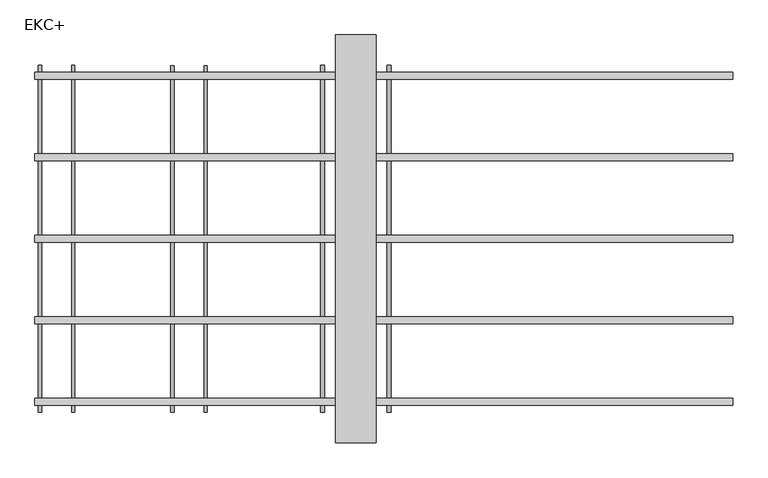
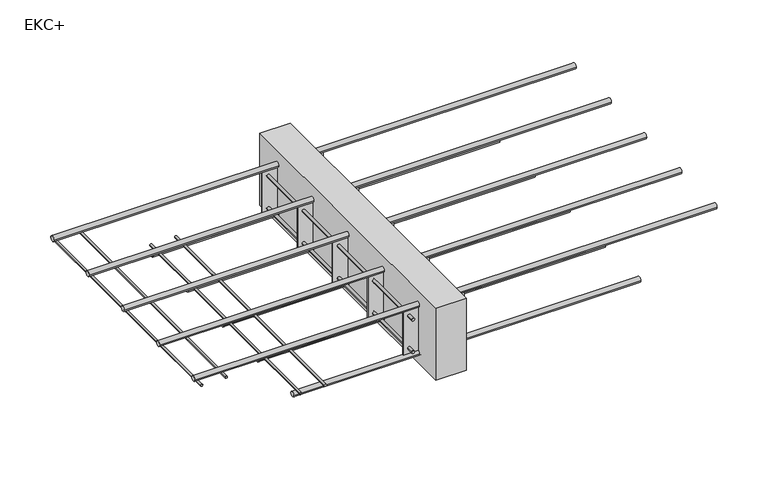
"""IFC4 building model written with IfcOpenShell, lengths in millimetres: fastener geometry, ACINOXplus_Typenreihe_EK : EKC+."""

import ifcopenshell
import ifcopenshell.guid

model = None  # the IFC model being written
_history = None  # IfcOwnerHistory: only IFC2X3 demands one
_inside = {}  # id of a spatial element -> (the spatial element, [elements in it])
_under = {}  # id of a project, library or spatial element -> (it, [spatial elements below it])
_declared = {}  # id of a project -> (the project, [libraries it declares])
_typed = {}  # id of a type object -> (the type object, [elements of that type])
_made_of = {}  # id of a material, layer set ... -> (it, [elements and type objects made of it])


def new_model(schema):
    """Start an empty IFC model of exactly this schema.

    Asked for "IFC4X3", IfcOpenShell would pick the latest addendum, in which some entities
    have other attributes; the version numbers below select the first issue.
    IFC2X3 requires an IfcOwnerHistory on every rooted entity: one is made here for all.
    """
    global model, _history
    if schema == "IFC4X3":
        model = ifcopenshell.file(schema_version=(4, 3, 0, 0))
    else:
        model = ifcopenshell.file(schema=schema)
    _inside.clear()
    _under.clear()
    _declared.clear()
    _typed.clear()
    _made_of.clear()
    _history = None
    if model.schema == "IFC2X3":
        org = make("IfcOrganization", Name="unknown")
        user = make(
            "IfcPersonAndOrganization",
            ThePerson=make("IfcPerson", FamilyName="unknown"),
            TheOrganization=org,
        )
        app = make(
            "IfcApplication",
            ApplicationDeveloper=org,
            Version="unknown",
            ApplicationFullName="unknown",
            ApplicationIdentifier="unknown",
        )
        _history = make(
            "IfcOwnerHistory",
            OwningUser=user,
            OwningApplication=app,
            ChangeAction="ADDED",
            CreationDate=0,
        )
    return model


def make(cls, **values):
    """One entity of the class cls with the attributes given. An attribute that is None is left unset."""
    return model.create_entity(
        cls, **{name: value for name, value in values.items() if value is not None}
    )


def rooted(cls, **values):
    """An entity with a GlobalId (a new one), such as an element, a storey or a relation."""
    return make(cls, GlobalId=ifcopenshell.guid.new(), OwnerHistory=_history, **values)


def si_unit(unit_type, name, prefix=None):
    """IfcSIUnit, for example si_unit("LENGTHUNIT", "METRE", prefix="MILLI")."""
    return make("IfcSIUnit", UnitType=unit_type, Prefix=prefix, Name=name)


def assignment(units):
    """IfcUnitAssignment: the units of a project."""
    return None if units is None else make("IfcUnitAssignment", Units=units)


def point(xyz):
    """IfcCartesianPoint."""
    return None if xyz is None else make("IfcCartesianPoint", Coordinates=xyz)


def direction(xyz):
    """IfcDirection."""
    return None if xyz is None else make("IfcDirection", DirectionRatios=xyz)


def frame(location, z_axis=None, x_axis=None):
    """IfcAxis2Placement3D, a coordinate frame: its origin and axes. An axis left out is left unset."""
    return make(
        "IfcAxis2Placement3D",
        Location=point(location),
        Axis=direction(z_axis),
        RefDirection=direction(x_axis),
    )


def frame_2d(location, x_axis=None):
    """IfcAxis2Placement2D, a coordinate frame in the plane: its origin and x axis."""
    return make(
        "IfcAxis2Placement2D", Location=point(location), RefDirection=direction(x_axis)
    )


def origin():
    """The frame at (0, 0, 0) with its axes left unset."""
    return frame((0.0, 0.0, 0.0))


def place(relative_to, where):
    """IfcLocalPlacement: puts the frame where relative to a parent placement (None: the world)."""
    return make(
        "IfcLocalPlacement", PlacementRelTo=relative_to, RelativePlacement=where
    )


def context(
    kind, dimensions, precision=None, world=None, true_north=None, identifier=None
):
    """IfcGeometricRepresentationContext, for example the 3D "Model" context."""
    return make(
        "IfcGeometricRepresentationContext",
        ContextIdentifier=identifier,
        ContextType=kind,
        CoordinateSpaceDimension=dimensions,
        Precision=precision,
        WorldCoordinateSystem=world,
        TrueNorth=true_north,
    )


def project(units=None, contexts=None):
    """IfcProject with its units and contexts."""
    return rooted(
        "IfcProject",
        Name="project",
        RepresentationContexts=contexts,
        UnitsInContext=assignment(units),
    )


def spatial(cls, under=None, at=None, **own):
    """A site, building, storey or space (cls), placed at a placement, below another one or the project."""
    s = rooted(cls, ObjectPlacement=at, **own)
    if under is not None:
        _under.setdefault(under.id(), (under, []))[1].append(s)
    return s


def polyline(points):
    """IfcPolyline through the points."""
    return make("IfcPolyline", Points=[point(p) for p in points])


def circle_curve(where, radius):
    """IfcCircle in the frame where."""
    return make("IfcCircle", Position=where, Radius=radius)


def trimmed(basis, trim1, trim2, sense, master):
    """IfcTrimmedCurve: the piece of a basis curve between two trims."""
    return make(
        "IfcTrimmedCurve",
        BasisCurve=basis,
        Trim1=trim1,
        Trim2=trim2,
        SenseAgreement=sense,
        MasterRepresentation=master,
    )


def segment(curve, same_sense, transition):
    """IfcCompositeCurveSegment."""
    return make(
        "IfcCompositeCurveSegment",
        Transition=transition,
        SameSense=same_sense,
        ParentCurve=curve,
    )


def composite_curve(segments, self_intersect=None):
    """IfcCompositeCurve: segments joined end to end."""
    return make("IfcCompositeCurve", Segments=segments, SelfIntersect=self_intersect)


def outline(outer, holes=None, kind="AREA"):
    """IfcArbitraryClosedProfileDef: a profile drawn as a closed curve; with holes, ...WithVoids."""
    if holes is None:
        return make("IfcArbitraryClosedProfileDef", ProfileType=kind, OuterCurve=outer)
    return make(
        "IfcArbitraryProfileDefWithVoids",
        ProfileType=kind,
        OuterCurve=outer,
        InnerCurves=holes,
    )


def extrude(swept, where, along, depth):
    """IfcExtrudedAreaSolid: the profile swept, set in the frame where, extruded along a direction by depth."""
    return make(
        "IfcExtrudedAreaSolid",
        SweptArea=swept,
        Position=where,
        ExtrudedDirection=direction(along),
        Depth=depth,
    )


def shape(context_of_items, identifier, shape_type, items):
    """IfcShapeRepresentation: the items that make up one representation, for example the "Body"."""
    return make(
        "IfcShapeRepresentation",
        ContextOfItems=context_of_items,
        RepresentationIdentifier=identifier,
        RepresentationType=shape_type,
        Items=items,
    )


def source(mapping_origin, context_of_items, identifier, shape_type, items):
    """IfcRepresentationMap: a shape defined once, which mapped items show again and again."""
    return make(
        "IfcRepresentationMap",
        MappingOrigin=mapping_origin,
        MappedRepresentation=shape(context_of_items, identifier, shape_type, items),
    )


def transform(
    local_origin,
    x_axis=None,
    y_axis=None,
    z_axis=None,
    scale=None,
    scale2=None,
    scale3=None,
    uniform=True,
):
    """IfcCartesianTransformationOperator3D, or its non-uniform kind. x_axis, y_axis, z_axis: its Axis1, 2, 3."""
    if uniform:
        return make(
            "IfcCartesianTransformationOperator3D",
            Axis1=direction(x_axis),
            Axis2=direction(y_axis),
            LocalOrigin=point(local_origin),
            Scale=scale,
            Axis3=direction(z_axis),
        )
    return make(
        "IfcCartesianTransformationOperator3DnonUniform",
        Axis1=direction(x_axis),
        Axis2=direction(y_axis),
        LocalOrigin=point(local_origin),
        Scale=scale,
        Axis3=direction(z_axis),
        Scale2=scale2,
        Scale3=scale3,
    )


def mapped(mapping_source, mapping_target):
    """IfcMappedItem: shows the shape of a source again, moved by a transform."""
    return make(
        "IfcMappedItem", MappingSource=mapping_source, MappingTarget=mapping_target
    )


def made_of(thing, what):
    """Note that an element or type object is made of a material, layer set ...; save() writes the relation."""
    if what is not None:
        _made_of.setdefault(what.id(), (what, []))[1].append(thing)
    return thing


def element(
    cls,
    number,
    at=None,
    inside=None,
    cuts=None,
    type_object=None,
    material=None,
    context=None,
    identifier="Body",
    shape_type=None,
    held_by="IfcProductDefinitionShape",
    body=None,
    shapes=None,
    **own,
):
    """One element of the class cls, such as IfcWall. Its Tag is "e" and its number.

    at: its placement. inside: the storey or other place that contains it. cuts: it is an
    opening in that element (IfcRelVoidsElement). A single representation is given by context,
    identifier, shape_type and body (its items); several are given by shapes. held_by: the class
    of the entity that holds the representations. save() writes the other relations.
    """
    e = rooted(cls, Tag="e%d" % number, ObjectPlacement=at, **own)
    if body is not None:
        shapes = [shape(context, identifier, shape_type, body)]
    if shapes is not None:
        e.Representation = make(held_by, Representations=shapes)
    if inside is not None:
        _inside.setdefault(inside.id(), (inside, []))[1].append(e)
    if cuts is not None:
        rooted(
            "IfcRelVoidsElement", RelatingBuildingElement=cuts, RelatedOpeningElement=e
        )
    if type_object is not None:
        _typed.setdefault(type_object.id(), (type_object, []))[1].append(e)
    return made_of(e, material)


def aggregate(whole, parts):
    """IfcRelAggregates: a whole, such as a stair, and the parts it consists of."""
    return rooted("IfcRelAggregates", RelatingObject=whole, RelatedObjects=parts)


def save(model, path):
    """Write the relations noted so far, then the file.

    IfcRelAggregates (storeys below a building ...), IfcRelContainedInSpatialStructure (elements
    in a storey), IfcRelDefinesByType, IfcRelAssociatesMaterial and IfcRelDeclares: one each for
    every whole, place, type object, material and project.
    """
    for whole, parts in _under.values():
        aggregate(whole, parts)
    for where, things in _inside.values():
        rooted(
            "IfcRelContainedInSpatialStructure",
            RelatedElements=things,
            RelatingStructure=where,
        )
    for kind, things in _typed.values():
        rooted("IfcRelDefinesByType", RelatedObjects=things, RelatingType=kind)
    for what, things in _made_of.values():
        rooted("IfcRelAssociatesMaterial", RelatedObjects=things, RelatingMaterial=what)
    for by, libraries in _declared.values():
        rooted("IfcRelDeclares", RelatingContext=by, RelatedDefinitions=libraries)
    model.write(path)


def ekc_1103d9b3(model_context):
    return source(origin(), model_context, "Body", "SweptSolid", [
        extrude(outline(polyline([(40.0, 400.0), (40.0, -400.0), (-40.0, -400.0), (-40.0, 400.0), (40.0, 400.0)])), frame((0.0, 0.0, -200.0), z_axis=(0.0, 0.0, 1.0), x_axis=(1.0, 0.0, 0.0)), (0.0, 0.0, 1.0), 200.0),
        extrude(outline(polyline([(80.0, -158.5), (80.0, -161.5), (-80.0, -161.5), (-80.0, -158.5), (80.0, -158.5)])), frame((0.0, 0.0, -164.0), z_axis=(0.0, 0.0, 1.0), x_axis=(1.0, 0.0, 0.0)), (0.0, 0.0, 1.0), 120.0),
        extrude(outline(polyline([(80.0, 1.5), (80.0, -1.5), (-80.0, -1.5), (-80.0, 1.5), (80.0, 1.5)])), frame((0.0, 0.0, -164.0), z_axis=(0.0, 0.0, 1.0), x_axis=(1.0, 0.0, 0.0)), (0.0, 0.0, 1.0), 120.0),
        extrude(outline(polyline([(80.0, 161.5), (80.0, 158.5), (-80.0, 158.5), (-80.0, 161.5), (80.0, 161.5)])), frame((0.0, 0.0, -164.0), z_axis=(0.0, 0.0, 1.0), x_axis=(1.0, 0.0, 0.0)), (0.0, 0.0, 1.0), 120.0),
        extrude(outline(polyline([(80.0, -318.5), (80.0, -321.5), (-80.0, -321.5), (-80.0, -318.5), (80.0, -318.5)])), frame((0.0, 0.0, -164.0), z_axis=(0.0, 0.0, 1.0), x_axis=(1.0, 0.0, 0.0)), (0.0, 0.0, 1.0), 120.0),
        extrude(outline(polyline([(80.0, 321.5), (80.0, 318.5), (-80.0, 318.5), (-80.0, 321.5), (80.0, 321.5)])), frame((0.0, 0.0, -164.0), z_axis=(0.0, 0.0, 1.0), x_axis=(1.0, 0.0, 0.0)), (0.0, 0.0, 1.0), 120.0),
        extrude(outline(composite_curve([segment(trimmed(circle_curve(frame_2d((-149.0, -65.0)), 4.0), [point((-149.0, -61.0))], [point((-149.0, -69.0))], False, "CARTESIAN"), True, "CONTINUOUS"), segment(trimmed(circle_curve(frame_2d((-149.0, -65.0)), 4.0), [point((-149.0, -69.0))], [point((-149.0, -61.0))], False, "CARTESIAN"), True, "CONTINUOUS")], self_intersect=False)), frame((0.0, -340.0, 0.0), z_axis=(0.0, 1.0, 0.0), x_axis=(0.0, 0.0, 1.0)), (0.0, 0.0, 1.0), 680.0),
        extrude(outline(composite_curve([segment(trimmed(circle_curve(frame_2d((-149.0, 65.0)), 4.0), [point((-149.0, 69.0))], [point((-149.0, 61.0))], False, "CARTESIAN"), True, "CONTINUOUS"), segment(trimmed(circle_curve(frame_2d((-149.0, 65.0)), 4.0), [point((-149.0, 61.0))], [point((-149.0, 69.0))], False, "CARTESIAN"), True, "CONTINUOUS")], self_intersect=False)), frame((0.0, -340.0, 0.0), z_axis=(0.0, 1.0, 0.0), x_axis=(0.0, 0.0, 1.0)), (0.0, 0.0, 1.0), 680.0),
        extrude(outline(composite_curve([segment(trimmed(circle_curve(frame_2d((-59.0, -65.0)), 4.0), [point((-59.0, -61.0))], [point((-59.0, -69.0))], False, "CARTESIAN"), True, "CONTINUOUS"), segment(trimmed(circle_curve(frame_2d((-59.0, -65.0)), 4.0), [point((-59.0, -69.0))], [point((-59.0, -61.0))], False, "CARTESIAN"), True, "CONTINUOUS")], self_intersect=False)), frame((0.0, -340.0, 0.0), z_axis=(0.0, 1.0, 0.0), x_axis=(0.0, 0.0, 1.0)), (0.0, 0.0, 1.0), 680.0),
        extrude(outline(composite_curve([segment(trimmed(circle_curve(frame_2d((-59.0, 65.0)), 4.0), [point((-59.0, 69.0))], [point((-59.0, 61.0))], False, "CARTESIAN"), True, "CONTINUOUS"), segment(trimmed(circle_curve(frame_2d((-59.0, 65.0)), 4.0), [point((-59.0, 61.0))], [point((-59.0, 69.0))], False, "CARTESIAN"), True, "CONTINUOUS")], self_intersect=False)), frame((0.0, -340.0, 0.0), z_axis=(0.0, 1.0, 0.0), x_axis=(0.0, 0.0, 1.0)), (0.0, 0.0, 1.0), 680.0),
        extrude(outline(composite_curve([segment(trimmed(circle_curve(frame_2d((0.0, -171.0)), 7.0), [point((-7.0, -171.0))], [point((7.0, -171.0))], False, "CARTESIAN"), True, "CONTINUOUS"), segment(trimmed(circle_curve(frame_2d((0.0, -171.0)), 7.0), [point((7.0, -171.0))], [point((-7.0, -171.0))], False, "CARTESIAN"), True, "CONTINUOUS")], self_intersect=False)), frame((-370.0, 0.0, 0.0), z_axis=(1.0, 0.0, 0.0), x_axis=(0.0, 1.0, 0.0)), (0.0, 0.0, 1.0), 910.0),
        extrude(outline(composite_curve([segment(trimmed(circle_curve(frame_2d((160.0, -171.0)), 7.0), [point((153.0, -171.0))], [point((167.0, -171.0))], False, "CARTESIAN"), True, "CONTINUOUS"), segment(trimmed(circle_curve(frame_2d((160.0, -171.0)), 7.0), [point((167.0, -171.0))], [point((153.0, -171.0))], False, "CARTESIAN"), True, "CONTINUOUS")], self_intersect=False)), frame((-370.0, 0.0, 0.0), z_axis=(1.0, 0.0, 0.0), x_axis=(0.0, 1.0, 0.0)), (0.0, 0.0, 1.0), 910.0),
        extrude(outline(composite_curve([segment(trimmed(circle_curve(frame_2d((320.0, -171.0)), 7.0), [point((313.0, -171.0))], [point((327.0, -171.0))], False, "CARTESIAN"), True, "CONTINUOUS"), segment(trimmed(circle_curve(frame_2d((320.0, -171.0)), 7.0), [point((327.0, -171.0))], [point((313.0, -171.0))], False, "CARTESIAN"), True, "CONTINUOUS")], self_intersect=False)), frame((-370.0, 0.0, 0.0), z_axis=(1.0, 0.0, 0.0), x_axis=(0.0, 1.0, 0.0)), (0.0, 0.0, 1.0), 910.0),
        extrude(outline(composite_curve([segment(trimmed(circle_curve(frame_2d((-160.0, -171.0)), 7.0), [point((-167.0, -171.0))], [point((-153.0, -171.0))], False, "CARTESIAN"), True, "CONTINUOUS"), segment(trimmed(circle_curve(frame_2d((-160.0, -171.0)), 7.0), [point((-153.0, -171.0))], [point((-167.0, -171.0))], False, "CARTESIAN"), True, "CONTINUOUS")], self_intersect=False)), frame((-370.0, 0.0, 0.0), z_axis=(1.0, 0.0, 0.0), x_axis=(0.0, 1.0, 0.0)), (0.0, 0.0, 1.0), 910.0),
        extrude(outline(composite_curve([segment(trimmed(circle_curve(frame_2d((-320.0, -171.0)), 7.0), [point((-327.0, -171.0))], [point((-313.0, -171.0))], False, "CARTESIAN"), True, "CONTINUOUS"), segment(trimmed(circle_curve(frame_2d((-320.0, -171.0)), 7.0), [point((-313.0, -171.0))], [point((-327.0, -171.0))], False, "CARTESIAN"), True, "CONTINUOUS")], self_intersect=False)), frame((-370.0, 0.0, 0.0), z_axis=(1.0, 0.0, 0.0), x_axis=(0.0, 1.0, 0.0)), (0.0, 0.0, 1.0), 910.0),
        extrude(outline(composite_curve([segment(trimmed(circle_curve(frame_2d((0.0, -37.0)), 7.0), [point((-7.0, -37.0))], [point((7.0, -37.0))], False, "CARTESIAN"), True, "CONTINUOUS"), segment(trimmed(circle_curve(frame_2d((0.0, -37.0)), 7.0), [point((7.0, -37.0))], [point((-7.0, -37.0))], False, "CARTESIAN"), True, "CONTINUOUS")], self_intersect=False)), frame((-630.0, 0.0, 0.0), z_axis=(1.0, 0.0, 0.0), x_axis=(0.0, 1.0, 0.0)), (0.0, 0.0, 1.0), 1370.0),
        extrude(outline(composite_curve([segment(trimmed(circle_curve(frame_2d((160.0, -37.0)), 7.0), [point((153.0, -37.0))], [point((167.0, -37.0))], False, "CARTESIAN"), True, "CONTINUOUS"), segment(trimmed(circle_curve(frame_2d((160.0, -37.0)), 7.0), [point((167.0, -37.0))], [point((153.0, -37.0))], False, "CARTESIAN"), True, "CONTINUOUS")], self_intersect=False)), frame((-630.0, 0.0, 0.0), z_axis=(1.0, 0.0, 0.0), x_axis=(0.0, 1.0, 0.0)), (0.0, 0.0, 1.0), 1370.0),
        extrude(outline(composite_curve([segment(trimmed(circle_curve(frame_2d((320.0, -37.0)), 7.0), [point((313.0, -37.0))], [point((327.0, -37.0))], False, "CARTESIAN"), True, "CONTINUOUS"), segment(trimmed(circle_curve(frame_2d((320.0, -37.0)), 7.0), [point((327.0, -37.0))], [point((313.0, -37.0))], False, "CARTESIAN"), True, "CONTINUOUS")], self_intersect=False)), frame((-630.0, 0.0, 0.0), z_axis=(1.0, 0.0, 0.0), x_axis=(0.0, 1.0, 0.0)), (0.0, 0.0, 1.0), 1370.0),
        extrude(outline(composite_curve([segment(trimmed(circle_curve(frame_2d((-160.0, -37.0)), 7.0), [point((-167.0, -37.0))], [point((-153.0, -37.0))], False, "CARTESIAN"), True, "CONTINUOUS"), segment(trimmed(circle_curve(frame_2d((-160.0, -37.0)), 7.0), [point((-153.0, -37.0))], [point((-167.0, -37.0))], False, "CARTESIAN"), True, "CONTINUOUS")], self_intersect=False)), frame((-630.0, 0.0, 0.0), z_axis=(1.0, 0.0, 0.0), x_axis=(0.0, 1.0, 0.0)), (0.0, 0.0, 1.0), 1370.0),
        extrude(outline(composite_curve([segment(trimmed(circle_curve(frame_2d((-320.0, -37.0)), 7.0), [point((-327.0, -37.0))], [point((-313.0, -37.0))], False, "CARTESIAN"), True, "CONTINUOUS"), segment(trimmed(circle_curve(frame_2d((-320.0, -37.0)), 7.0), [point((-313.0, -37.0))], [point((-327.0, -37.0))], False, "CARTESIAN"), True, "CONTINUOUS")], self_intersect=False)), frame((-630.0, 0.0, 0.0), z_axis=(1.0, 0.0, 0.0), x_axis=(0.0, 1.0, 0.0)), (0.0, 0.0, 1.0), 1370.0),
        extrude(outline(composite_curve([segment(trimmed(circle_curve(frame_2d((-161.0, -360.0)), 3.0), [point((-161.0, -357.0))], [point((-161.0, -363.0))], False, "CARTESIAN"), True, "CONTINUOUS"), segment(trimmed(circle_curve(frame_2d((-161.0, -360.0)), 3.0), [point((-161.0, -363.0))], [point((-161.0, -357.0))], False, "CARTESIAN"), True, "CONTINUOUS")], self_intersect=False)), frame((0.0, -340.0, 0.0), z_axis=(0.0, 1.0, 0.0), x_axis=(0.0, 0.0, 1.0)), (0.0, 0.0, 1.0), 680.0),
        extrude(outline(composite_curve([segment(trimmed(circle_curve(frame_2d((-161.0, -295.0)), 3.0), [point((-161.0, -292.0))], [point((-161.0, -298.0))], False, "CARTESIAN"), True, "CONTINUOUS"), segment(trimmed(circle_curve(frame_2d((-161.0, -295.0)), 3.0), [point((-161.0, -298.0))], [point((-161.0, -292.0))], False, "CARTESIAN"), True, "CONTINUOUS")], self_intersect=False)), frame((0.0, -340.0, 0.0), z_axis=(0.0, 1.0, 0.0), x_axis=(0.0, 0.0, 1.0)), (0.0, 0.0, 1.0), 680.0),
        extrude(outline(composite_curve([segment(trimmed(circle_curve(frame_2d((-47.0, -620.0)), 3.0), [point((-47.0, -617.0))], [point((-47.0, -623.0))], False, "CARTESIAN"), True, "CONTINUOUS"), segment(trimmed(circle_curve(frame_2d((-47.0, -620.0)), 3.0), [point((-47.0, -623.0))], [point((-47.0, -617.0))], False, "CARTESIAN"), True, "CONTINUOUS")], self_intersect=False)), frame((0.0, -340.0, 0.0), z_axis=(0.0, 1.0, 0.0), x_axis=(0.0, 0.0, 1.0)), (0.0, 0.0, 1.0), 680.0),
        extrude(outline(composite_curve([segment(trimmed(circle_curve(frame_2d((-47.0, -555.0)), 3.0), [point((-47.0, -552.0))], [point((-47.0, -558.0))], False, "CARTESIAN"), True, "CONTINUOUS"), segment(trimmed(circle_curve(frame_2d((-47.0, -555.0)), 3.0), [point((-47.0, -558.0))], [point((-47.0, -552.0))], False, "CARTESIAN"), True, "CONTINUOUS")], self_intersect=False)), frame((0.0, -340.0, 0.0), z_axis=(0.0, 1.0, 0.0), x_axis=(0.0, 0.0, 1.0)), (0.0, 0.0, 1.0), 680.0),
    ])


if __name__ == "__main__":
    model = new_model("IFC4")
    model_context = context("Model", 3, world=origin())
    ifc_project = project(units=[si_unit("LENGTHUNIT", "METRE", prefix="MILLI")], contexts=[model_context])
    site = spatial("IfcSite", under=ifc_project)
    building = spatial("IfcBuilding", under=site)
    placement = place(None, origin())
    ekc_shape = ekc_1103d9b3(model_context)
    element("IfcFastener", 1, ObjectType="ACINOXplus_Typenreihe_EK : EKC+", at=placement, inside=building, context=model_context, shape_type="MappedRepresentation", body=[
        mapped(ekc_shape, transform((0.0, 0.0, 0.0), x_axis=(1.0, 0.0, 0.0), y_axis=(0.0, 1.0, 0.0), z_axis=(0.0, 0.0, 1.0))),
    ])
    save(model, "model.ifc")
